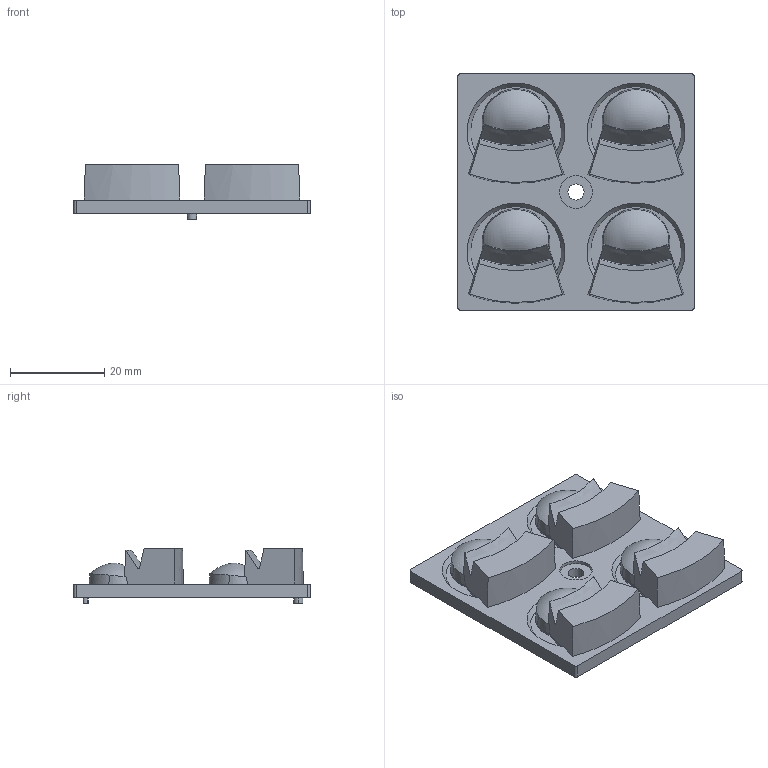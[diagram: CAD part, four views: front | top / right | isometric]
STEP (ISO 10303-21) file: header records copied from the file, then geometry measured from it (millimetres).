
FILE_DESCRIPTION(('Creo Elements/Direct Modeling STEP Export'),'2;1');
FILE_NAME('95513_test.stp','2026-02-02T16:48:12',(''),(''),'Creo Elements/Direct Modeling STEP processor for AP214 (Solid Model)','Creo Elements/Direct Modeling 20.8 17-May-2025 (C) Parametric Technology GmbH','');
FILE_SCHEMA(('AUTOMOTIVE_DESIGN { 1 0 10303 214 1 1 1 1 }'));
Length unit declared in the file: millimetre
Products named in the file (2): 95513
Assembly tree (1 placements, depth 2):
  95513
    95513
Bounding box: 50 x 50 x 11.6 mm (x, y, z)
Volume: 12586.6 mm3; surface area: 7986.1 mm2
Topology: 1 solids, 1 shells, 332 faces, 920 edges, 617 vertices
Faces by surface type: plane 213, cylinder 59, bspline 36, extrusion 20, cone 4
Entity records: 34682 total; most frequent: CARTESIAN_POINT 25459, ORIENTED_EDGE 1832, DIRECTION 1359, EDGE_CURVE 916, VERTEX_POINT 617, VECTOR 615, LINE 595, AXIS2_PLACEMENT_3D 372
